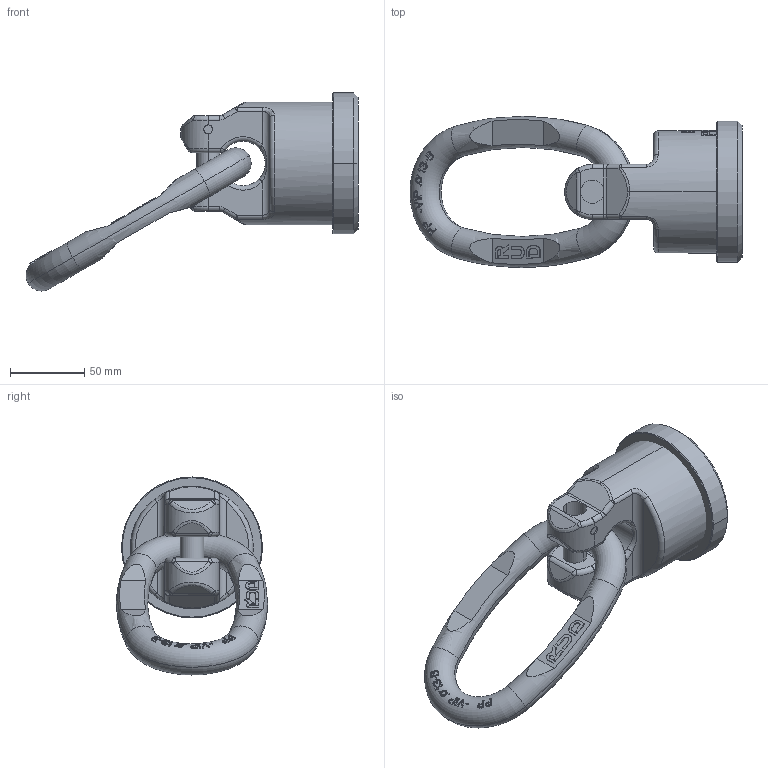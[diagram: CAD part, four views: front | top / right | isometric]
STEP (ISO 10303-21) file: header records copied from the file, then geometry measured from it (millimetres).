
FILE_DESCRIPTION((''),'2;1');
FILE_NAME('001-M31395-P-40_ASM','2018-04-26T',('Anja.Joas'),(''),'PRO/ENGINEER BY PARAMETRIC TECHNOLOGY CORPORATION, 2011490','PRO/ENGINEER BY PARAMETRIC TECHNOLOGY CORPORATION, 2011490','');
FILE_SCHEMA(('CONFIG_CONTROL_DESIGN'));
Length unit declared in the file: millimetre
Products named in the file (4): 001-M31395-P-20; 001-M31395-P-50; 001-M31290-004; 001-M31395-P-40_ASM
Assembly tree (3 placements, depth 2):
  001-M31395-P-40_ASM
    001-M31395-P-20
    001-M31395-P-50
    001-M31290-004
Bounding box: 223.76 x 102 x 133.5 mm (x, y, z)
Volume: 588549.7 mm3; surface area: 79790.1 mm2
Topology: 3 solids, 3 shells, 602 faces, 1595 edges, 1036 vertices
Faces by surface type: plane 467, cylinder 66, torus 32, bspline 26, cone 6, sphere 4, extrusion 1
Entity records: 20944 total; most frequent: CARTESIAN_POINT 6733, ORIENTED_EDGE 3190, DIRECTION 2540, EDGE_CURVE 1595, VERTEX_POINT 1036, VECTOR 848, LINE 847, AXIS2_PLACEMENT_3D 846
